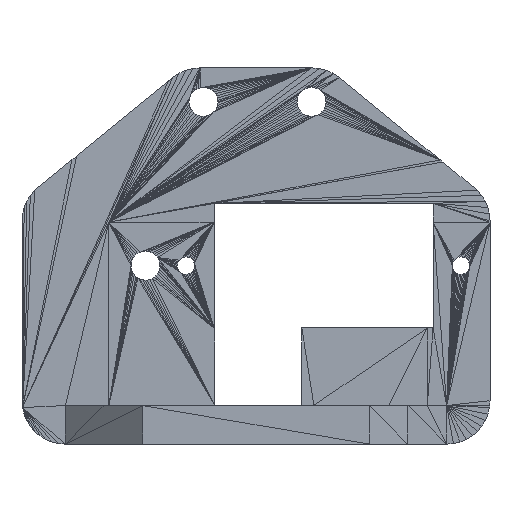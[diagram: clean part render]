
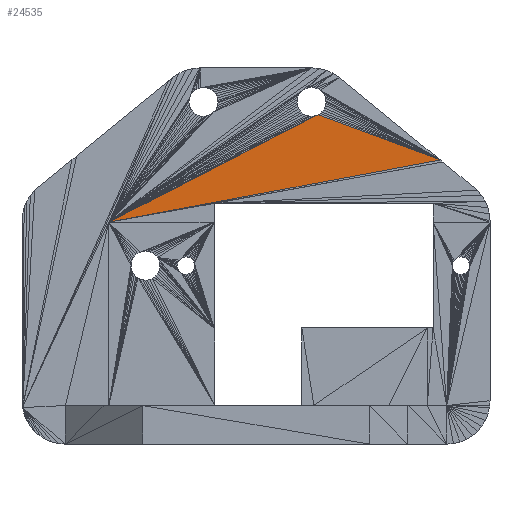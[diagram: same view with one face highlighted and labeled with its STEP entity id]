
A CAD part, front view. The second image highlights one B-rep face of the part: STEP entity #24535.
In plain terms, the highlighted planar face has unit normal (0, -1, 0).
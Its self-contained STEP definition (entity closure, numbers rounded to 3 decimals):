
#2031=FACE_OUTER_BOUND('',#4078,.T.);
#4078=EDGE_LOOP('',(#20379,#20380,#20381));
#7061=LINE('',#39676,#10133);
#7116=LINE('',#39785,#10188);
#7153=LINE('',#39860,#10225);
#10133=VECTOR('',#33433,10.);
#10188=VECTOR('',#33596,10.);
#10225=VECTOR('',#33707,10.);
#11065=VERTEX_POINT('',#38327);
#11188=VERTEX_POINT('',#38834);
#11211=VERTEX_POINT('',#38945);
#14208=EDGE_CURVE('',#11065,#11211,#7061,.T.);
#14263=EDGE_CURVE('',#11188,#11065,#7116,.T.);
#14300=EDGE_CURVE('',#11188,#11211,#7153,.T.);
#20379=ORIENTED_EDGE('',*,*,#14263,.F.);
#20380=ORIENTED_EDGE('',*,*,#14300,.T.);
#20381=ORIENTED_EDGE('',*,*,#14208,.F.);
#22488=PLANE('',#26596);
#24535=ADVANCED_FACE('',(#2031),#22488,.T.);
#26596=AXIS2_PLACEMENT_3D('',#39859,#33705,#33706);
#33433=DIRECTION('',(0.938,0.,-0.346));
#33596=DIRECTION('',(0.89,0.,0.457));
#33705=DIRECTION('center_axis',(0.,-1.,0.));
#33706=DIRECTION('ref_axis',(0.,0.,-1.));
#33707=DIRECTION('',(0.983,0.,0.185));
#38327=CARTESIAN_POINT('',(306.753,80.,341.306));
#38834=CARTESIAN_POINT('',(90.,80.,230.));
#38945=CARTESIAN_POINT('',(433.304,80.,294.6));
#39676=CARTESIAN_POINT('',(306.753,80.,341.306));
#39785=CARTESIAN_POINT('',(90.,80.,230.));
#39859=CARTESIAN_POINT('Origin',(433.304,80.,294.6));
#39860=CARTESIAN_POINT('',(90.,80.,230.));
